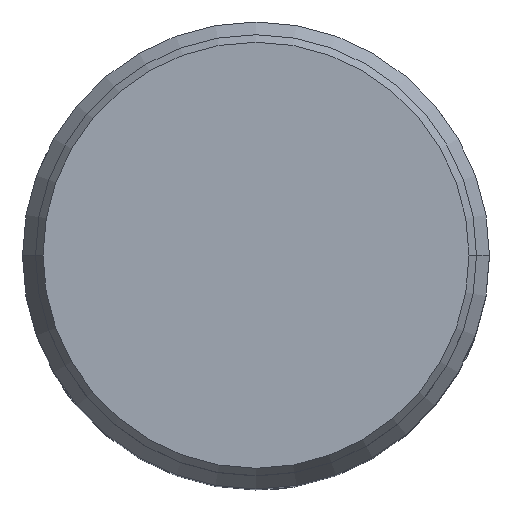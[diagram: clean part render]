
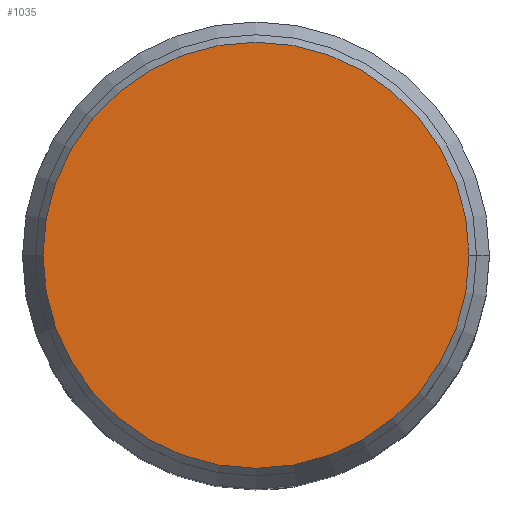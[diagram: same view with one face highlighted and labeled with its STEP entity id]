
A CAD part, top view. The second image highlights one B-rep face of the part: STEP entity #1035.
In plain terms, the highlighted planar face has unit normal (0, 0, 1).
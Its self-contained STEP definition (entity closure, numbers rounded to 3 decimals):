
#237 = PLANE ( 'NONE',  #2232 ) ;
#263 = CIRCLE ( 'NONE', #2710, 16.423 ) ;
#347 = DIRECTION ( 'NONE',  ( 0., 0., 1. ) ) ;
#378 = DIRECTION ( 'NONE',  ( 0., 0., 1. ) ) ;
#896 = DIRECTION ( 'NONE',  ( 1., 0., 0. ) ) ;
#914 = FACE_OUTER_BOUND ( 'NONE', #2594, .T. ) ;
#965 = DIRECTION ( 'NONE',  ( 1., 0., 0. ) ) ;
#1035 = ADVANCED_FACE ( 'NONE', ( #914 ), #237, .T. ) ;
#1258 = ORIENTED_EDGE ( 'NONE', *, *, #3432, .T. ) ;
#1313 = VERTEX_POINT ( 'NONE', #3502 ) ;
#1361 = AXIS2_PLACEMENT_3D ( 'NONE', #2246, #347, #965 ) ;
#1521 = EDGE_CURVE ( 'NONE', #1313, #1761, #263, .T. ) ;
#1532 = DIRECTION ( 'NONE',  ( 0., 0., 1. ) ) ;
#1760 = CARTESIAN_POINT ( 'NONE',  ( -16.423, 0., 68. ) ) ;
#1761 = VERTEX_POINT ( 'NONE', #1760 ) ;
#2232 = AXIS2_PLACEMENT_3D ( 'NONE', #3821, #1532, #896 ) ;
#2246 = CARTESIAN_POINT ( 'NONE',  ( 0., 0., 68. ) ) ;
#2594 = EDGE_LOOP ( 'NONE', ( #1258, #3408 ) ) ;
#2655 = CIRCLE ( 'NONE', #1361, 16.423 ) ;
#2710 = AXIS2_PLACEMENT_3D ( 'NONE', #3300, #378, #2978 ) ;
#2978 = DIRECTION ( 'NONE',  ( 1., 0., 0. ) ) ;
#3300 = CARTESIAN_POINT ( 'NONE',  ( 0., 0., 68. ) ) ;
#3408 = ORIENTED_EDGE ( 'NONE', *, *, #1521, .T. ) ;
#3432 = EDGE_CURVE ( 'NONE', #1761, #1313, #2655, .T. ) ;
#3502 = CARTESIAN_POINT ( 'NONE',  ( 16.423, 0., 68. ) ) ;
#3821 = CARTESIAN_POINT ( 'NONE',  ( 0., 0., 68. ) ) ;
